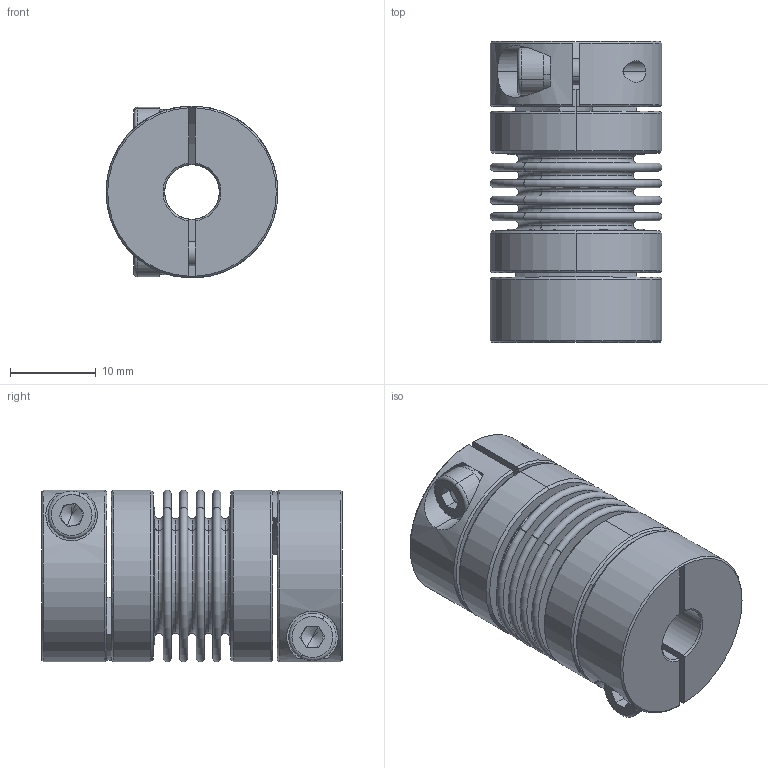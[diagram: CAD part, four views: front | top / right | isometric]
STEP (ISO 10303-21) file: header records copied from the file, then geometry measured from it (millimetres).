
FILE_DESCRIPTION (( 'STEP AP203' ), '1' );
FILE_NAME ('LB-B-D20L34-6.35-6.35.STEP', '2021-11-04T01:41:29', ( '' ), ( '' ), 'SwSTEP 2.0', 'SolidWorks 2018', '' );
FILE_SCHEMA (( 'CONFIG_CONTROL_DESIGN' ));
Length unit declared in the file: millimetre
Products named in the file (2): LB-B-D20L34-6.35-6.35; 零件4^LB-B-D20L34 波纹管联轴器-组装体
Assembly tree (1 placements, depth 2):
  LB-B-D20L34-6.35-6.35
    零件4^LB-B-D20L34 波纹管联轴器-组装体
Bounding box: 20 x 35 x 20 mm (x, y, z)
Volume: 6057.2 mm3; surface area: 9551.7 mm2
Topology: 1 solids, 1 shells, 246 faces, 578 edges, 358 vertices
Faces by surface type: plane 82, torus 68, cylinder 62, cone 34
Entity records: 7554 total; most frequent: CARTESIAN_POINT 1494, DIRECTION 1382, ORIENTED_EDGE 1148, AXIS2_PLACEMENT_3D 606, EDGE_CURVE 574, VERTEX_POINT 358, CIRCLE 356, EDGE_LOOP 288
